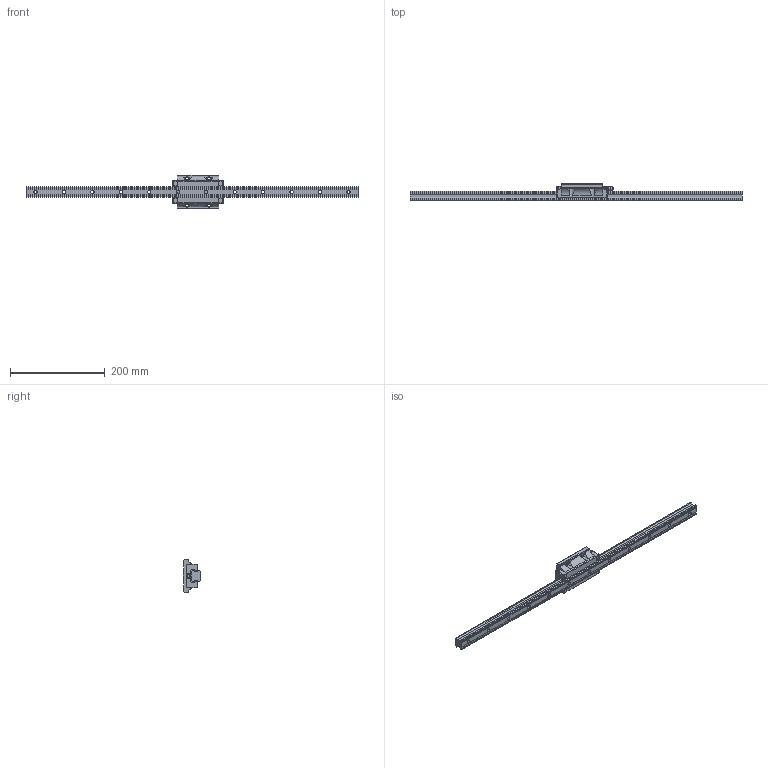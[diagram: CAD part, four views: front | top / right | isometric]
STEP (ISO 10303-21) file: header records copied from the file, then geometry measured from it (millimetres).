
FILE_DESCRIPTION (( 'STEP AP214' ), '1' );
FILE_NAME ('EGH25FL.STEP', '2021-07-06T05:46:24', ( '' ), ( '' ), 'SwSTEP 2.0', 'SolidWorks 2019', '' );
FILE_SCHEMA (( 'AUTOMOTIVE_DESIGN' ));
Length unit declared in the file: millimetre
Products named in the file (4): EG25レール; EGH25FLキャリッジ; EGH25FL; M6グリースニップル
Assembly tree (3 placements, depth 2):
  EGH25FL
    EG25レール
    EGH25FLキャリッジ
    M6グリースニップル
Bounding box: 700 x 36 x 70 mm (x, y, z)
Volume: 400269 mm3; surface area: 101359.2 mm2
Topology: 7 solids, 7 shells, 546 faces, 1513 edges, 999 vertices
Faces by surface type: plane 348, cylinder 174, cone 20, torus 3, sphere 1
Full cylindrical faces by diameter (mm): 6 x1, 7 x12, 7.75 x1, 8 x1, 11 x12
Entity records: 23044 total; most frequent: CARTESIAN_POINT 3411, ORIENTED_EDGE 2952, DIRECTION 2914, EDGE_CURVE 1476, LINE 1076, VECTOR 1076, VERTEX_POINT 995, AXIS2_PLACEMENT_3D 919
